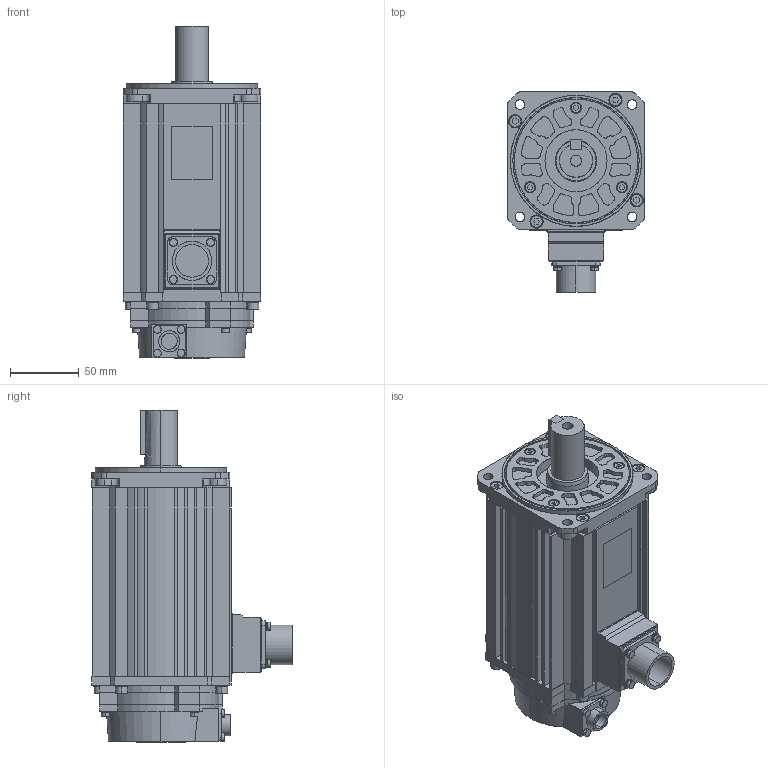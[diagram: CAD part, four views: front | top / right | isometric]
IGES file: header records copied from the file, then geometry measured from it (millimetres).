
Start section: SolidWorks IGES file using analytic representation for surfaces
Global section: file name: C:\YASKAWA\sgmsv_25__a61.IGS; native system: SolidWorks 2006 by SolidWorks Corporation; preprocessor: SolidWorks 2006 by SolidWorks Corporation; author: yamanouchi; date: 090922.091710; units: millimetre
Bounding box: 100 x 144.99 x 240.6 mm (x, y, z)
Surface area: 150278.9 mm2 (no closed solid volume)
Topology: 0 solids, 0 shells, 822 faces, 10141 edges, 10141 vertices
Faces by surface type: bspline 459, revolution 363
